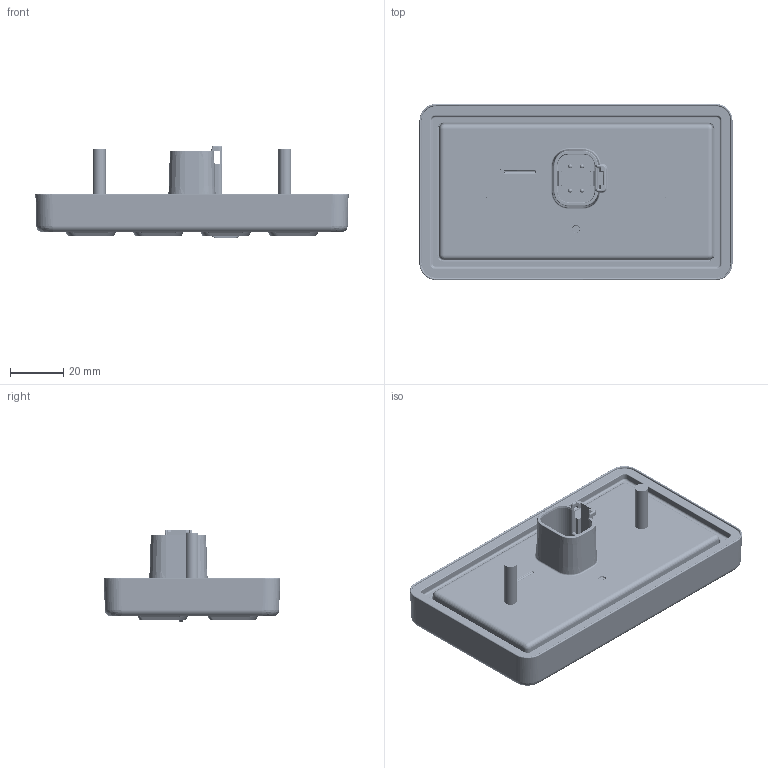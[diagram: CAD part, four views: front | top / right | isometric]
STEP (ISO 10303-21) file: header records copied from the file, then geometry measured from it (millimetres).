
FILE_DESCRIPTION (( 'STEP AP214' ), '1' );
FILE_NAME ('CL-6024_2X4_05MAR2025.STEP', '2025-03-05T18:05:40', ( '' ), ( '' ), 'SwSTEP 2.0', 'SolidWorks 2024', '' );
FILE_SCHEMA (( 'AUTOMOTIVE_DESIGN' ));
Length unit declared in the file: inch
Products named in the file (14): 175-0314-S0-G; 186-24-600_02; CL-6024-500; 171-02-624; 415-11-618; 186-24-600_01; 485-15-604; CL-6024_2X4_05MAR2025; 175-0314-S0-G_PIN; CL-6024-501; 186-24-600; CL-6024-502; PM-064-400-G
Assembly tree (16 placements, depth 4):
  171-02-624
  CL-6024_2X4_05MAR2025
    186-24-600
      186-24-600_01
      186-24-600_02
    CL-6024-502
      CL-6024-500
        CL-6024-501
        415-11-618  x2
      485-15-604
    PM-064-400-G
      175-0314-S0-G
        175-0314-S0-G
        175-0314-S0-G_PIN  x4
Bounding box: 118.09 x 66.4 x 35 mm (x, y, z)
Volume: 62614.4 mm3; surface area: 63535.6 mm2
Topology: 12 solids, 28 shells, 6369 faces, 15729 edges, 9501 vertices
Faces by surface type: plane 2027, cylinder 1732, bspline 1156, cone 828, torus 367, sphere 259
Entity records: 213145 total; most frequent: CARTESIAN_POINT 74303, ORIENTED_EDGE 30346, DIRECTION 27884, EDGE_CURVE 15173, AXIS2_PLACEMENT_3D 10278, VERTEX_POINT 9217, VECTOR 7328, LINE 7328
